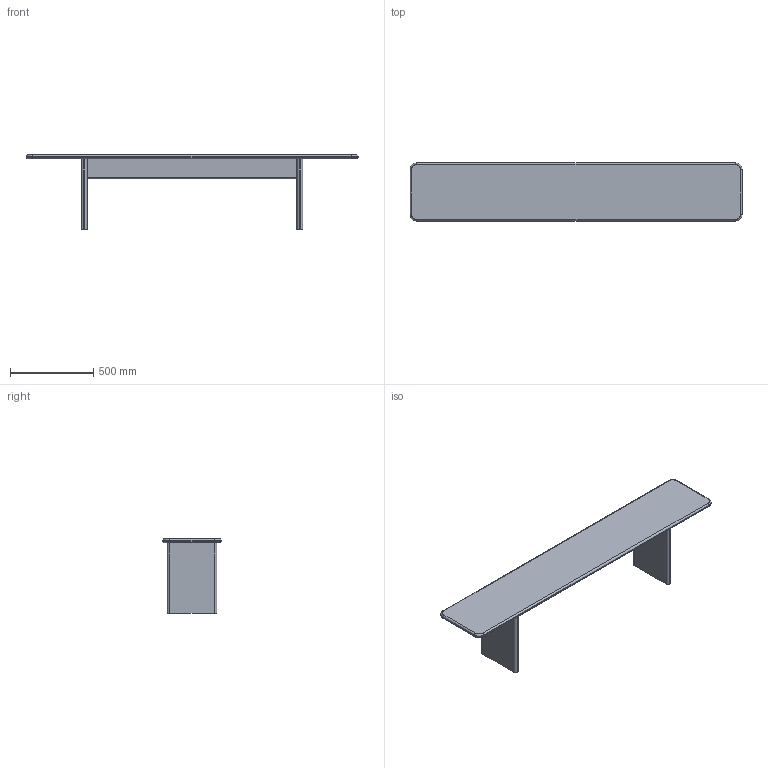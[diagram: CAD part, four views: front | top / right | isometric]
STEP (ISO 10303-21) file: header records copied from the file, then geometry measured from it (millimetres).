
FILE_DESCRIPTION(/* description */ (''),/* implementation_level */ '2;1');
FILE_NAME(/* name */ 'Rink_Bench_2000_Ferm Living_3D',/* time_stamp */ '2026-05-12T15:03:06+02:00',/* author */ (''),/* organization */ (''),/* preprocessor_version */ 'ST-DEVELOPER v19.2',/* originating_system */ 'Rhino 8.30',/* authorisation */ '');
FILE_SCHEMA (('CONFIG_CONTROL_DESIGN'));
Length unit declared in the file: millimetre
Products named in the file (1): Document
Bounding box: 2000 x 350 x 448 mm (x, y, z)
Volume: 29726022.6 mm3; surface area: 2514847.7 mm2
Topology: 24 solids, 24 shells, 548 faces, 1256 edges, 784 vertices
Faces by surface type: plane 226, bspline 188, cylinder 134
Entity records: 16884 total; most frequent: CARTESIAN_POINT 6198, ORIENTED_EDGE 2512, DIRECTION 1436, EDGE_CURVE 1256, AXIS2_PLACEMENT_3D 898, VERTEX_POINT 784, EDGE_LOOP 628, ADVANCED_FACE 548
